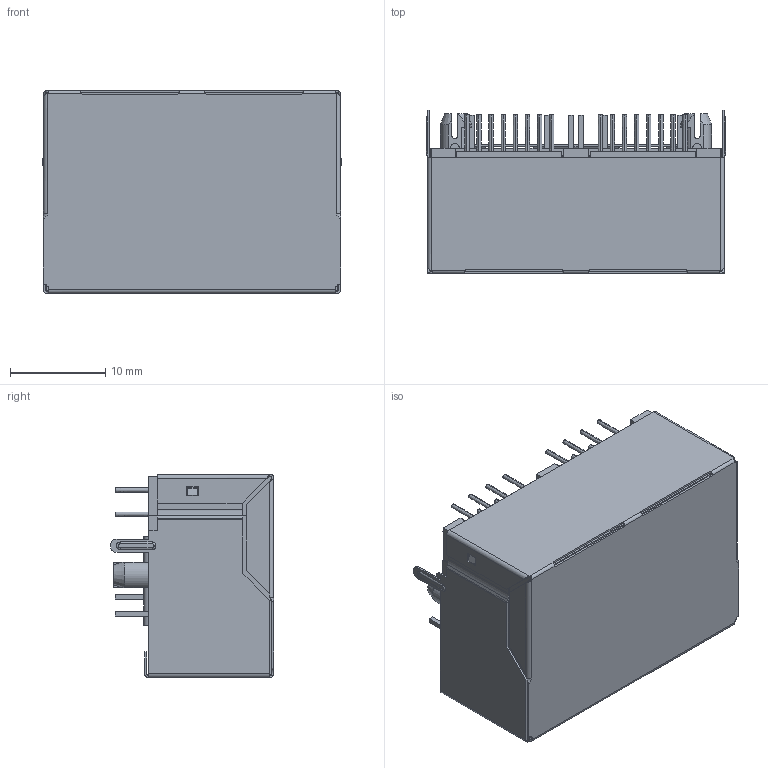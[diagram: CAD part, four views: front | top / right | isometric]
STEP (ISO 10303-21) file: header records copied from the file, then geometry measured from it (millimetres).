
FILE_DESCRIPTION((''),'2;1');
FILE_NAME('5921S-1X2-EMI_ASM','2022-03-30T14:32:57',('Hi 洪启武'),(''),'CREO PARAMETRIC BY PTC INC, 2021424','CREO PARAMETRIC BY PTC INC, 2021424','');
FILE_SCHEMA(('CONFIG_CONTROL_DESIGN','GEOMETRIC_VALIDATION_PROPERTIES_MIM'));
Length unit declared in the file: millimetre
Products named in the file (4): 5921-1X2-00; 5921-00; 5921S-LED-1X2-EMI-000; 5921S-1X2-EMI_ASM
Assembly tree (4 placements, depth 2):
  5921S-1X2-EMI_ASM
    5921-1X2-00
    5921-00  x2
    5921S-LED-1X2-EMI-000
Bounding box: 31.32 x 17.1 x 21.27 mm (x, y, z)
Volume: 5341.7 mm3; surface area: 12349 mm2
Topology: 20 solids, 20 shells, 1553 faces, 4033 edges, 2485 vertices
Faces by surface type: plane 935, bspline 284, cylinder 262, cone 68, torus 4
Entity records: 43476 total; most frequent: CARTESIAN_POINT 15166, ORIENTED_EDGE 6228, DIRECTION 5129, EDGE_CURVE 3114, VECTOR 2363, LINE 2363, VERTEX_POINT 1923, AXIS2_PLACEMENT_3D 1383
